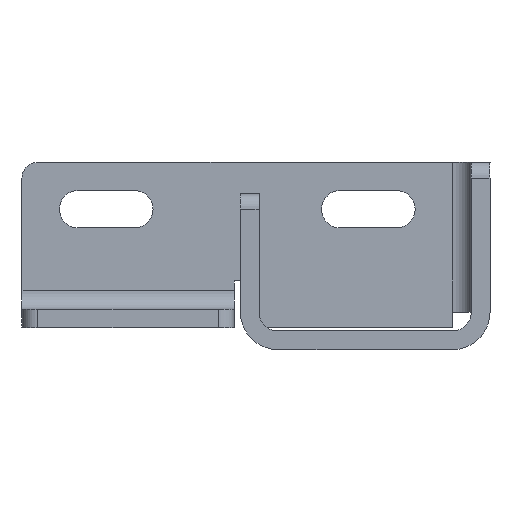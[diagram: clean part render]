
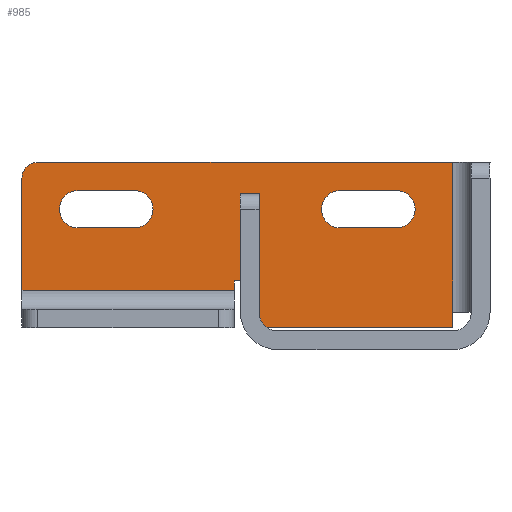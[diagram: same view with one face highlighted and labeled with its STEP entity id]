
A CAD part, front view. The second image highlights one B-rep face of the part: STEP entity #985.
In plain terms, the highlighted planar face has unit normal (0, -1, 0).
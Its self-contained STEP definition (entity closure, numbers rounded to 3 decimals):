
#670=CARTESIAN_POINT('',(-115.,-75.,60.));
#671=VERTEX_POINT('',#670);
#678=CARTESIAN_POINT('',(18.,-75.,60.0));
#679=VERTEX_POINT('',#678);
#680=CARTESIAN_POINT('',(-115.,-75.,60.));
#681=DIRECTION('',(1.0,0.0,0.0));
#682=VECTOR('',#681,133.0);
#683=LINE('',#680,#682);
#684=EDGE_CURVE('',#671,#679,#683,.T.);
#785=CARTESIAN_POINT('',(-41.,-75.,7.));
#786=VERTEX_POINT('',#785);
#793=CARTESIAN_POINT('',(-46.,-75.,12.));
#794=VERTEX_POINT('',#793);
#795=CARTESIAN_POINT('',(-41.,-75.,12.));
#796=DIRECTION('',(0.,1.,0.));
#797=DIRECTION('',(-0.707,0.,-0.707));
#798=AXIS2_PLACEMENT_3D('',#795,#796,#797);
#799=CIRCLE('',#798,5.);
#800=EDGE_CURVE('',#786,#794,#799,.T.);
#817=CARTESIAN_POINT('',(-46.,-75.,22.));
#818=VERTEX_POINT('',#817);
#819=CARTESIAN_POINT('',(-46.,-75.,22.));
#820=DIRECTION('',(0.0,0.0,-1.0));
#821=VECTOR('',#820,10.);
#822=LINE('',#819,#821);
#823=EDGE_CURVE('',#818,#794,#822,.T.);
#842=CARTESIAN_POINT('',(-45.,-75.,33.5));
#843=DIRECTION('',(0.0,1.0,0.0));
#844=DIRECTION('',(0.0,0.0,1.0));
#845=AXIS2_PLACEMENT_3D('',#842,#843,#844);
#846=PLANE('',#845);
#847=ORIENTED_EDGE('',*,*,#800,.F.);
#848=CARTESIAN_POINT('',(18.,-75.,7.));
#849=VERTEX_POINT('',#848);
#850=CARTESIAN_POINT('',(18.,-75.,7.));
#851=DIRECTION('',(-1.0,0.0,0.0));
#852=VECTOR('',#851,59.);
#853=LINE('',#850,#852);
#854=EDGE_CURVE('',#849,#786,#853,.T.);
#855=ORIENTED_EDGE('',*,*,#854,.F.);
#856=CARTESIAN_POINT('',(18.,-75.,12.));
#857=VERTEX_POINT('',#856);
#858=CARTESIAN_POINT('',(18.,-75.,7.));
#859=DIRECTION('',(0.0,0.0,1.0));
#860=VECTOR('',#859,5.0);
#861=LINE('',#858,#860);
#862=EDGE_CURVE('',#849,#857,#861,.T.);
#863=ORIENTED_EDGE('',*,*,#862,.T.);
#864=CARTESIAN_POINT('',(18.,-75.,60.0));
#865=DIRECTION('',(0.0,0.0,-1.0));
#866=VECTOR('',#865,48.);
#867=LINE('',#864,#866);
#868=EDGE_CURVE('',#679,#857,#867,.T.);
#869=ORIENTED_EDGE('',*,*,#868,.F.);
#870=ORIENTED_EDGE('',*,*,#684,.F.);
#871=CARTESIAN_POINT('',(-120.,-75.,55.));
#872=VERTEX_POINT('',#871);
#873=CARTESIAN_POINT('',(-115.,-75.,55.));
#874=DIRECTION('',(0.0,1.,0.0));
#875=DIRECTION('',(-0.707,0.0,0.707));
#876=AXIS2_PLACEMENT_3D('',#873,#874,#875);
#877=CIRCLE('',#876,5.);
#878=EDGE_CURVE('',#872,#671,#877,.T.);
#879=ORIENTED_EDGE('',*,*,#878,.F.);
#880=CARTESIAN_POINT('',(-120.,-75.,19.));
#881=VERTEX_POINT('',#880);
#882=CARTESIAN_POINT('',(-120.,-75.,19.));
#883=DIRECTION('',(0.0,0.0,1.0));
#884=VECTOR('',#883,36.);
#885=LINE('',#882,#884);
#886=EDGE_CURVE('',#881,#872,#885,.T.);
#887=ORIENTED_EDGE('',*,*,#886,.F.);
#888=CARTESIAN_POINT('',(-52.,-75.,19.));
#889=VERTEX_POINT('',#888);
#890=CARTESIAN_POINT('',(-120.,-75.,19.));
#891=DIRECTION('',(1.0,0.0,0.0));
#892=VECTOR('',#891,68.);
#893=LINE('',#890,#892);
#894=EDGE_CURVE('',#881,#889,#893,.T.);
#895=ORIENTED_EDGE('',*,*,#894,.T.);
#896=CARTESIAN_POINT('',(-52.,-75.,22.));
#897=VERTEX_POINT('',#896);
#898=CARTESIAN_POINT('',(-52.,-75.,19.));
#899=DIRECTION('',(0.0,0.0,1.0));
#900=VECTOR('',#899,3.);
#901=LINE('',#898,#900);
#902=EDGE_CURVE('',#889,#897,#901,.T.);
#903=ORIENTED_EDGE('',*,*,#902,.T.);
#904=CARTESIAN_POINT('',(-52.,-75.,22.));
#905=DIRECTION('',(1.0,0.0,0.0));
#906=VECTOR('',#905,6.0);
#907=LINE('',#904,#906);
#908=EDGE_CURVE('',#897,#818,#907,.T.);
#909=ORIENTED_EDGE('',*,*,#908,.T.);
#910=ORIENTED_EDGE('',*,*,#823,.T.);
#911=EDGE_LOOP('',(#847,#855,#863,#869,#870,#879,#887,#895,#903,#909,#910));
#912=FACE_OUTER_BOUND('',#911,.T.);
#913=CARTESIAN_POINT('',(-84.,-75.,51.));
#914=VERTEX_POINT('',#913);
#915=CARTESIAN_POINT('',(-84.,-75.,39.0));
#916=VERTEX_POINT('',#915);
#917=CARTESIAN_POINT('',(-84.,-75.,45.));
#918=DIRECTION('',(0.0,1.0,0.0));
#919=DIRECTION('',(0.0,0.0,1.0));
#920=AXIS2_PLACEMENT_3D('',#917,#918,#919);
#921=CIRCLE('',#920,6.);
#922=EDGE_CURVE('',#914,#916,#921,.T.);
#923=ORIENTED_EDGE('',*,*,#922,.T.);
#924=CARTESIAN_POINT('',(-102.,-75.,39.));
#925=VERTEX_POINT('',#924);
#926=CARTESIAN_POINT('',(-84.,-75.,39.0));
#927=DIRECTION('',(-1.0,0.0,0.0));
#928=VECTOR('',#927,18.);
#929=LINE('',#926,#928);
#930=EDGE_CURVE('',#916,#925,#929,.T.);
#931=ORIENTED_EDGE('',*,*,#930,.T.);
#932=CARTESIAN_POINT('',(-102.,-75.,51.));
#933=VERTEX_POINT('',#932);
#934=CARTESIAN_POINT('',(-102.,-75.,45.));
#935=DIRECTION('',(0.0,1.0,0.0));
#936=DIRECTION('',(0.0,0.0,-1.0));
#937=AXIS2_PLACEMENT_3D('',#934,#935,#936);
#938=CIRCLE('',#937,6.);
#939=EDGE_CURVE('',#925,#933,#938,.T.);
#940=ORIENTED_EDGE('',*,*,#939,.T.);
#941=CARTESIAN_POINT('',(-102.,-75.,51.));
#942=DIRECTION('',(1.0,0.0,0.0));
#943=VECTOR('',#942,18.);
#944=LINE('',#941,#943);
#945=EDGE_CURVE('',#933,#914,#944,.T.);
#946=ORIENTED_EDGE('',*,*,#945,.T.);
#947=EDGE_LOOP('',(#923,#931,#940,#946));
#948=FACE_BOUND('',#947,.T.);
#949=CARTESIAN_POINT('',(-18.,-75.,39.));
#950=VERTEX_POINT('',#949);
#951=CARTESIAN_POINT('',(-18.,-75.,51.0));
#952=VERTEX_POINT('',#951);
#953=CARTESIAN_POINT('',(-18.,-75.,45.));
#954=DIRECTION('',(0.0,1.0,0.0));
#955=DIRECTION('',(0.0,0.0,1.0));
#956=AXIS2_PLACEMENT_3D('',#953,#954,#955);
#957=CIRCLE('',#956,6.);
#958=EDGE_CURVE('',#950,#952,#957,.T.);
#959=ORIENTED_EDGE('',*,*,#958,.T.);
#960=CARTESIAN_POINT('',(0.,-75.,51.));
#961=VERTEX_POINT('',#960);
#962=CARTESIAN_POINT('',(-18.,-75.,51.0));
#963=DIRECTION('',(1.0,0.0,0.0));
#964=VECTOR('',#963,18.);
#965=LINE('',#962,#964);
#966=EDGE_CURVE('',#952,#961,#965,.T.);
#967=ORIENTED_EDGE('',*,*,#966,.T.);
#968=CARTESIAN_POINT('',(0.,-75.,39.));
#969=VERTEX_POINT('',#968);
#970=CARTESIAN_POINT('',(0.,-75.,45.0));
#971=DIRECTION('',(0.0,1.0,0.0));
#972=DIRECTION('',(0.0,0.0,-1.0));
#973=AXIS2_PLACEMENT_3D('',#970,#971,#972);
#974=CIRCLE('',#973,6.);
#975=EDGE_CURVE('',#961,#969,#974,.T.);
#976=ORIENTED_EDGE('',*,*,#975,.T.);
#977=CARTESIAN_POINT('',(0.,-75.,39.));
#978=DIRECTION('',(-1.0,0.0,0.0));
#979=VECTOR('',#978,18.);
#980=LINE('',#977,#979);
#981=EDGE_CURVE('',#969,#950,#980,.T.);
#982=ORIENTED_EDGE('',*,*,#981,.T.);
#983=EDGE_LOOP('',(#959,#967,#976,#982));
#984=FACE_BOUND('',#983,.T.);
#985=ADVANCED_FACE('',(#912,#948,#984),#846,.F.);
